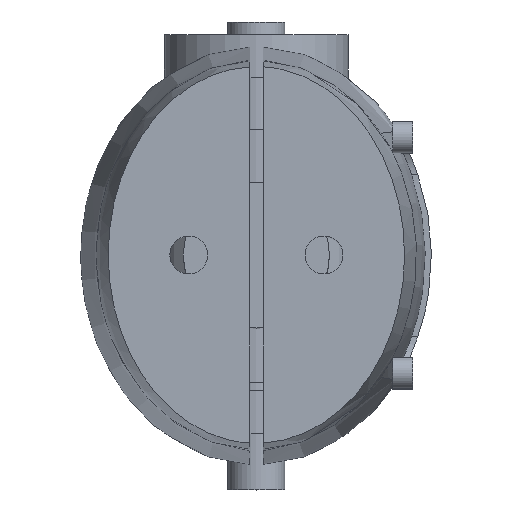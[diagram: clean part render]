
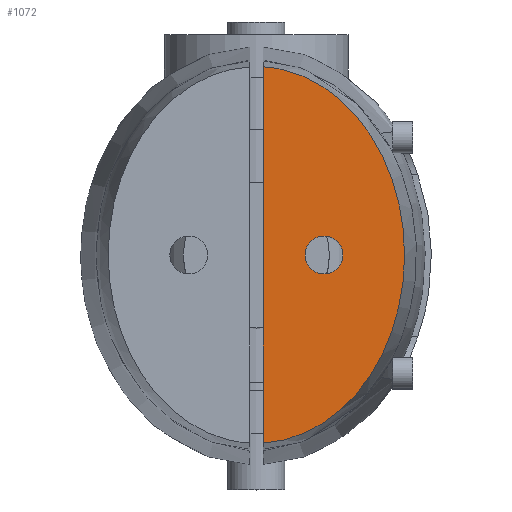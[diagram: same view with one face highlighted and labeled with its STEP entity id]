
A CAD part, top view. The second image highlights one B-rep face of the part: STEP entity #1072.
In plain terms, the highlighted planar face has unit normal (0, 0, 1).
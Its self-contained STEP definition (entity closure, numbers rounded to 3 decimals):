
#477 = VERTEX_POINT('',#478);
#478 = CARTESIAN_POINT('',(0.25,-6.958,22.2));
#582 = VERTEX_POINT('',#583);
#583 = CARTESIAN_POINT('',(0.25,6.958,22.2));
#666 = EDGE_CURVE('',#477,#582,#667,.T.);
#667 = B_SPLINE_CURVE_WITH_KNOTS('',14,(#668,#669,#670,#671,#672,#673,
    #674,#675,#676,#677,#678,#679,#680,#681,#682),.UNSPECIFIED.,.T.,.F.,
  (15,15),(0.,1.),.PIECEWISE_BEZIER_KNOTS.);
#668 = CARTESIAN_POINT('',(0.,6.965,22.2));
#669 = CARTESIAN_POINT('',(-2.46,6.965,22.2));
#670 = CARTESIAN_POINT('',(-4.92,5.454,22.2));
#671 = CARTESIAN_POINT('',(-6.757,2.433,22.2));
#672 = CARTESIAN_POINT('',(-7.349,-1.648,22.2));
#673 = CARTESIAN_POINT('',(-6.298,-5.884,22.2));
#674 = CARTESIAN_POINT('',(-3.65,-9.118,22.2));
#675 = CARTESIAN_POINT('',(0.,-10.335,22.2));
#676 = CARTESIAN_POINT('',(3.65,-9.118,22.2));
#677 = CARTESIAN_POINT('',(6.298,-5.884,22.2));
#678 = CARTESIAN_POINT('',(7.349,-1.648,22.2));
#679 = CARTESIAN_POINT('',(6.757,2.433,22.2));
#680 = CARTESIAN_POINT('',(4.92,5.454,22.2));
#681 = CARTESIAN_POINT('',(2.46,6.965,22.2));
#682 = CARTESIAN_POINT('',(0.,6.965,22.2));
#1062 = EDGE_CURVE('',#582,#477,#1063,.T.);
#1063 = LINE('',#1064,#1065);
#1064 = CARTESIAN_POINT('',(0.25,-14.017,22.2));
#1065 = VECTOR('',#1066,1.);
#1066 = DIRECTION('',(0.,-1.,0.));
#1072 = ADVANCED_FACE('',(#1073,#1077),#1088,.F.);
#1073 = FACE_BOUND('',#1074,.F.);
#1074 = EDGE_LOOP('',(#1075,#1076));
#1075 = ORIENTED_EDGE('',*,*,#666,.F.);
#1076 = ORIENTED_EDGE('',*,*,#1062,.F.);
#1077 = FACE_BOUND('',#1078,.F.);
#1078 = EDGE_LOOP('',(#1079));
#1079 = ORIENTED_EDGE('',*,*,#1080,.T.);
#1080 = EDGE_CURVE('',#1081,#1081,#1083,.T.);
#1081 = VERTEX_POINT('',#1082);
#1082 = CARTESIAN_POINT('',(3.2,0.,22.2));
#1083 = CIRCLE('',#1084,0.7);
#1084 = AXIS2_PLACEMENT_3D('',#1085,#1086,#1087);
#1085 = CARTESIAN_POINT('',(2.5,0.,22.2));
#1086 = DIRECTION('',(0.,0.,1.));
#1087 = DIRECTION('',(1.,0.,-0.));
#1088 = PLANE('',#1089);
#1089 = AXIS2_PLACEMENT_3D('',#1090,#1091,#1092);
#1090 = CARTESIAN_POINT('',(0.,6.965,22.2));
#1091 = DIRECTION('',(0.,0.,-1.));
#1092 = DIRECTION('',(0.,-1.,-0.));
